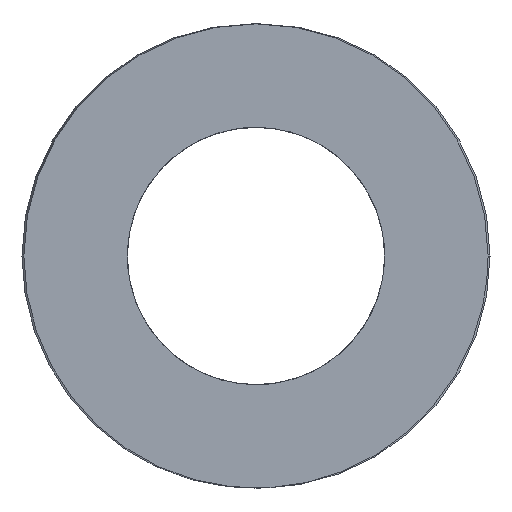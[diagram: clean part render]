
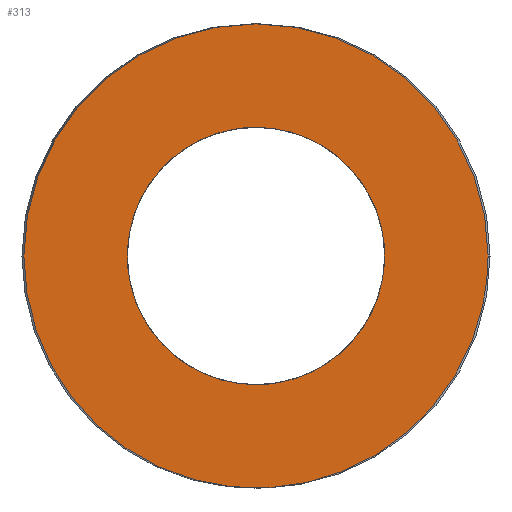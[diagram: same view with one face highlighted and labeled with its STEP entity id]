
A CAD part, left-side view. The second image highlights one B-rep face of the part: STEP entity #313.
In plain terms, the highlighted planar face has unit normal (-1, 0, 0).
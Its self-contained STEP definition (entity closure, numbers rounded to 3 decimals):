
#63=CARTESIAN_POINT('Vertex',(0.,9.2,0.)) ;
#89=CARTESIAN_POINT('Vertex',(0.,-9.2,0.)) ;
#93=CARTESIAN_POINT('Control Point',(0.,9.2,0.)) ;
#94=CARTESIAN_POINT('Control Point',(0.,9.2,-1.445)) ;
#95=CARTESIAN_POINT('Control Point',(0.,8.916,-2.89)) ;
#96=CARTESIAN_POINT('Control Point',(0.,8.348,-4.261)) ;
#97=CARTESIAN_POINT('Control Point',(0.,6.706,-6.706)) ;
#98=CARTESIAN_POINT('Control Point',(0.,4.261,-8.348)) ;
#99=CARTESIAN_POINT('Control Point',(0.,2.89,-8.916)) ;
#100=CARTESIAN_POINT('Control Point',(0.,0.,-9.484)) ;
#101=CARTESIAN_POINT('Control Point',(0.,-2.89,-8.916)) ;
#102=CARTESIAN_POINT('Control Point',(0.,-4.261,-8.348)) ;
#103=CARTESIAN_POINT('Control Point',(0.,-6.706,-6.706)) ;
#104=CARTESIAN_POINT('Control Point',(0.,-8.348,-4.261)) ;
#105=CARTESIAN_POINT('Control Point',(0.,-8.916,-2.89)) ;
#106=CARTESIAN_POINT('Control Point',(0.,-9.2,-1.445)) ;
#107=CARTESIAN_POINT('Control Point',(0.,-9.2,0.)) ;
#121=CARTESIAN_POINT('Axis2P3D Location',(0.,0.,0.)) ;
#250=CARTESIAN_POINT('Axis2P3D Location',(0.,4.6,0.)) ;
#260=CARTESIAN_POINT('Control Point',(0.,0.,-5.1)) ;
#261=CARTESIAN_POINT('Control Point',(0.,0.553,-5.1)) ;
#262=CARTESIAN_POINT('Control Point',(0.,1.106,-5.025)) ;
#263=CARTESIAN_POINT('Control Point',(0.,1.646,-4.875)) ;
#264=CARTESIAN_POINT('Control Point',(0.,2.671,-4.432)) ;
#265=CARTESIAN_POINT('Control Point',(0.,3.541,-3.733)) ;
#266=CARTESIAN_POINT('Control Point',(0.,3.926,-3.326)) ;
#267=CARTESIAN_POINT('Control Point',(0.,4.575,-2.418)) ;
#268=CARTESIAN_POINT('Control Point',(0.,4.96,-1.37)) ;
#269=CARTESIAN_POINT('Control Point',(0.,5.079,-0.822)) ;
#270=CARTESIAN_POINT('Control Point',(0.,5.167,0.291)) ;
#271=CARTESIAN_POINT('Control Point',(0.,4.955,1.387)) ;
#272=CARTESIAN_POINT('Control Point',(0.,4.775,1.917)) ;
#273=CARTESIAN_POINT('Control Point',(0.,4.275,2.916)) ;
#274=CARTESIAN_POINT('Control Point',(0.,3.528,3.745)) ;
#275=CARTESIAN_POINT('Control Point',(0.,3.1,4.106)) ;
#276=CARTESIAN_POINT('Control Point',(0.,2.255,4.642)) ;
#277=CARTESIAN_POINT('Control Point',(0.,1.309,4.959)) ;
#278=CARTESIAN_POINT('Control Point',(0.,0.877,5.053)) ;
#279=CARTESIAN_POINT('Control Point',(0.,0.439,5.1)) ;
#280=CARTESIAN_POINT('Control Point',(0.,0.,5.1)) ;
#281=CARTESIAN_POINT('Vertex',(0.,0.,-5.1)) ;
#283=CARTESIAN_POINT('Vertex',(0.,0.,5.1)) ;
#287=CARTESIAN_POINT('Control Point',(0.,0.,5.1)) ;
#288=CARTESIAN_POINT('Control Point',(0.,-0.553,5.1)) ;
#289=CARTESIAN_POINT('Control Point',(0.,-1.106,5.025)) ;
#290=CARTESIAN_POINT('Control Point',(0.,-1.646,4.875)) ;
#291=CARTESIAN_POINT('Control Point',(0.,-2.671,4.432)) ;
#292=CARTESIAN_POINT('Control Point',(0.,-3.541,3.733)) ;
#293=CARTESIAN_POINT('Control Point',(0.,-3.926,3.326)) ;
#294=CARTESIAN_POINT('Control Point',(0.,-4.575,2.418)) ;
#295=CARTESIAN_POINT('Control Point',(0.,-4.96,1.37)) ;
#296=CARTESIAN_POINT('Control Point',(0.,-5.079,0.822)) ;
#297=CARTESIAN_POINT('Control Point',(0.,-5.167,-0.291)) ;
#298=CARTESIAN_POINT('Control Point',(0.,-4.955,-1.387)) ;
#299=CARTESIAN_POINT('Control Point',(0.,-4.775,-1.917)) ;
#300=CARTESIAN_POINT('Control Point',(0.,-4.275,-2.916)) ;
#301=CARTESIAN_POINT('Control Point',(0.,-3.528,-3.745)) ;
#302=CARTESIAN_POINT('Control Point',(0.,-3.1,-4.106)) ;
#303=CARTESIAN_POINT('Control Point',(0.,-2.255,-4.642)) ;
#304=CARTESIAN_POINT('Control Point',(0.,-1.309,-4.959)) ;
#305=CARTESIAN_POINT('Control Point',(0.,-0.877,-5.053)) ;
#306=CARTESIAN_POINT('Control Point',(0.,-0.439,-5.1)) ;
#307=CARTESIAN_POINT('Control Point',(0.,0.,-5.1)) ;
#122=DIRECTION('Axis2P3D Direction',(1.,-0.,0.)) ;
#251=DIRECTION('Axis2P3D Direction',(-1.,0.,0.)) ;
#252=DIRECTION('Axis2P3D XDirection',(0.,1.,0.)) ;
#123=AXIS2_PLACEMENT_3D('Circle Axis2P3D',#121,#122,$) ;
#253=AXIS2_PLACEMENT_3D('Plane Axis2P3D',#250,#251,#252) ;
#256=ORIENTED_EDGE('',*,*,#108,.T.) ;
#257=ORIENTED_EDGE('',*,*,#125,.T.) ;
#310=ORIENTED_EDGE('',*,*,#285,.T.) ;
#311=ORIENTED_EDGE('',*,*,#308,.T.) ;
#312=FACE_BOUND('',#309,.T.) ;
#313=ADVANCED_FACE('392-B20-089',(#258,#312),#254,.T.) ;
#92=B_SPLINE_CURVE_WITH_KNOTS('',5,(#93,#94,#95,#96,#97,#98,#99,#100,#101,#102,#103,#104,#105,#106,#107),.UNSPECIFIED.,.F.,.U.,(6,3,3,3,6),(-14.451,-7.226,0.,7.226,14.451),.UNSPECIFIED.) ;
#259=B_SPLINE_CURVE_WITH_KNOTS('',5,(#260,#261,#262,#263,#264,#265,#266,#267,#268,#269,#270,#271,#272,#273,#274,#275,#276,#277,#278,#279,#280),.UNSPECIFIED.,.F.,.U.,(6,3,3,3,3,3,6),(0.,3.911,7.823,11.734,15.646,19.557,22.658),.UNSPECIFIED.) ;
#286=B_SPLINE_CURVE_WITH_KNOTS('',5,(#287,#288,#289,#290,#291,#292,#293,#294,#295,#296,#297,#298,#299,#300,#301,#302,#303,#304,#305,#306,#307),.UNSPECIFIED.,.F.,.U.,(6,3,3,3,3,3,6),(0.,3.911,7.823,11.734,15.646,19.557,22.658),.UNSPECIFIED.) ;
#124=CIRCLE('generated circle',#123,9.2) ;
#108=EDGE_CURVE('',#64,#90,#92,.T.) ;
#125=EDGE_CURVE('',#90,#64,#124,.F.) ;
#285=EDGE_CURVE('',#282,#284,#259,.T.) ;
#308=EDGE_CURVE('',#284,#282,#286,.T.) ;
#255=EDGE_LOOP('',(#256,#257)) ;
#309=EDGE_LOOP('',(#310,#311)) ;
#258=FACE_OUTER_BOUND('',#255,.T.) ;
#254=PLANE('Plane',#253) ;
#64=VERTEX_POINT('',#63) ;
#90=VERTEX_POINT('',#89) ;
#282=VERTEX_POINT('',#281) ;
#284=VERTEX_POINT('',#283) ;
